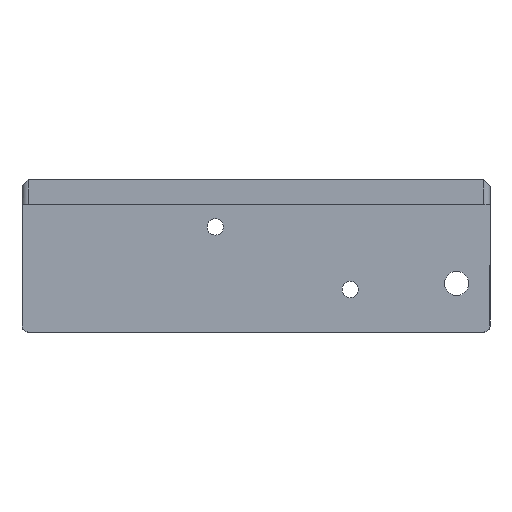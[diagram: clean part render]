
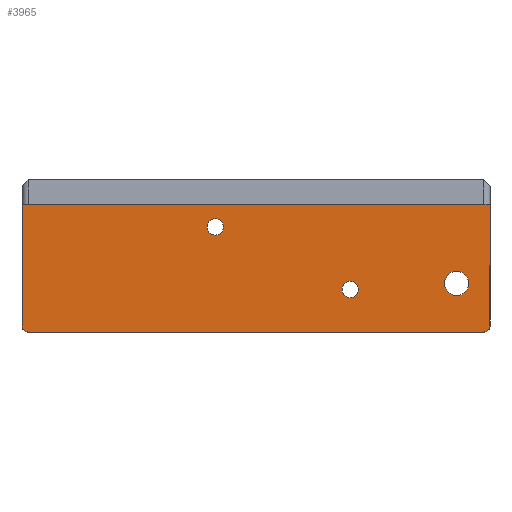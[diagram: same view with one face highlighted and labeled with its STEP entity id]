
A CAD part, top view. The second image highlights one B-rep face of the part: STEP entity #3965.
In plain terms, the highlighted planar face has unit normal (0, 0, 1).
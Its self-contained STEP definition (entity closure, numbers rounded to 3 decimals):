
#185 = CARTESIAN_POINT ( 'NONE',  ( -5.35, -5.7, -8.5 ) ) ;
#203 = DIRECTION ( 'NONE',  ( 0., 0., -1. ) ) ;
#207 = CARTESIAN_POINT ( 'NONE',  ( 37.5, -22., -8.5 ) ) ;
#208 = CIRCLE ( 'NONE', #2625, 1.35 ) ;
#272 = EDGE_LOOP ( 'NONE', ( #1256, #1338, #852, #5131, #1008, #1140 ) ) ;
#334 = CIRCLE ( 'NONE', #1825, 2. ) ;
#347 = DIRECTION ( 'NONE',  ( 0., 0., 1. ) ) ;
#359 = DIRECTION ( 'NONE',  ( 0., 0., -1. ) ) ;
#380 = FACE_BOUND ( 'NONE', #4721, .T. ) ;
#438 = EDGE_CURVE ( 'NONE', #2123, #4660, #4566, .T. ) ;
#508 = DIRECTION ( 'NONE',  ( 0., 0., -1. ) ) ;
#544 = EDGE_CURVE ( 'NONE', #1235, #3293, #5606, .T. ) ;
#565 = CARTESIAN_POINT ( 'NONE',  ( 16.85, -16., -8.5 ) ) ;
#583 = VECTOR ( 'NONE', #5707, 1000. ) ;
#586 = CIRCLE ( 'NONE', #3911, 1. ) ;
#611 = DIRECTION ( 'NONE',  ( 0., 1., 0. ) ) ;
#660 = EDGE_CURVE ( 'NONE', #4492, #2173, #2752, .T. ) ;
#662 = AXIS2_PLACEMENT_3D ( 'NONE', #3155, #359, #3627 ) ;
#676 = VERTEX_POINT ( 'NONE', #565 ) ;
#697 = DIRECTION ( 'NONE',  ( -1., 0., 0. ) ) ;
#779 = VERTEX_POINT ( 'NONE', #4849 ) ;
#852 = ORIENTED_EDGE ( 'NONE', *, *, #3095, .T. ) ;
#953 = CARTESIAN_POINT ( 'NONE',  ( -38.5, -22., -8.5 ) ) ;
#1008 = ORIENTED_EDGE ( 'NONE', *, *, #544, .F. ) ;
#1107 = CARTESIAN_POINT ( 'NONE',  ( 38.5, -2., -8.5 ) ) ;
#1140 = ORIENTED_EDGE ( 'NONE', *, *, #3703, .T. ) ;
#1177 = ORIENTED_EDGE ( 'NONE', *, *, #660, .T. ) ;
#1235 = VERTEX_POINT ( 'NONE', #953 ) ;
#1254 = CARTESIAN_POINT ( 'NONE',  ( 38.5, -23., -8.5 ) ) ;
#1256 = ORIENTED_EDGE ( 'NONE', *, *, #438, .F. ) ;
#1314 = AXIS2_PLACEMENT_3D ( 'NONE', #3299, #508, #3765 ) ;
#1338 = ORIENTED_EDGE ( 'NONE', *, *, #1470, .T. ) ;
#1379 = EDGE_CURVE ( 'NONE', #1755, #3293, #3752, .T. ) ;
#1418 = DIRECTION ( 'NONE',  ( 0., 0., -1. ) ) ;
#1470 = EDGE_CURVE ( 'NONE', #2123, #2653, #586, .T. ) ;
#1597 = FACE_BOUND ( 'NONE', #3853, .T. ) ;
#1755 = VERTEX_POINT ( 'NONE', #4916 ) ;
#1793 = VECTOR ( 'NONE', #1958, 1000. ) ;
#1825 = AXIS2_PLACEMENT_3D ( 'NONE', #2502, #5735, #2981 ) ;
#1834 = CIRCLE ( 'NONE', #2430, 1.35 ) ;
#1852 = ORIENTED_EDGE ( 'NONE', *, *, #3447, .T. ) ;
#1958 = DIRECTION ( 'NONE',  ( 0., 1., 0. ) ) ;
#2020 = CARTESIAN_POINT ( 'NONE',  ( 31., -15., -8.5 ) ) ;
#2059 = EDGE_CURVE ( 'NONE', #676, #779, #1834, .T. ) ;
#2123 = VERTEX_POINT ( 'NONE', #3143 ) ;
#2152 = CARTESIAN_POINT ( 'NONE',  ( -6.7, -5.7, -8.5 ) ) ;
#2173 = VERTEX_POINT ( 'NONE', #4548 ) ;
#2187 = DIRECTION ( 'NONE',  ( 0., 0., -1. ) ) ;
#2289 = EDGE_LOOP ( 'NONE', ( #3751, #1177 ) ) ;
#2355 = CARTESIAN_POINT ( 'NONE',  ( -8.05, -5.7, -8.5 ) ) ;
#2430 = AXIS2_PLACEMENT_3D ( 'NONE', #4976, #2187, #5427 ) ;
#2502 = CARTESIAN_POINT ( 'NONE',  ( 33., -15., -8.5 ) ) ;
#2553 = VECTOR ( 'NONE', #611, 1000. ) ;
#2625 = AXIS2_PLACEMENT_3D ( 'NONE', #2152, #5393, #2631 ) ;
#2631 = DIRECTION ( 'NONE',  ( -1., 0., 0. ) ) ;
#2653 = VERTEX_POINT ( 'NONE', #4162 ) ;
#2695 = CARTESIAN_POINT ( 'NONE',  ( -38.5, -2., -8.5 ) ) ;
#2718 = LINE ( 'NONE', #4327, #2553 ) ;
#2752 = CIRCLE ( 'NONE', #1314, 2. ) ;
#2819 = FACE_BOUND ( 'NONE', #2289, .T. ) ;
#2907 = CARTESIAN_POINT ( 'NONE',  ( -38.5, -23., -8.5 ) ) ;
#2909 = ORIENTED_EDGE ( 'NONE', *, *, #4121, .T. ) ;
#2981 = DIRECTION ( 'NONE',  ( -1., 0., 0. ) ) ;
#3008 = CARTESIAN_POINT ( 'NONE',  ( 15.5, -16., -8.5 ) ) ;
#3095 = EDGE_CURVE ( 'NONE', #2653, #1755, #2718, .T. ) ;
#3141 = CARTESIAN_POINT ( 'NONE',  ( -37.5, -22., -8.5 ) ) ;
#3143 = CARTESIAN_POINT ( 'NONE',  ( 37.5, -23., -8.5 ) ) ;
#3155 = CARTESIAN_POINT ( 'NONE',  ( -6.7, -5.7, -8.5 ) ) ;
#3217 = CIRCLE ( 'NONE', #662, 1.35 ) ;
#3283 = ORIENTED_EDGE ( 'NONE', *, *, #6001, .T. ) ;
#3293 = VERTEX_POINT ( 'NONE', #2695 ) ;
#3299 = CARTESIAN_POINT ( 'NONE',  ( 33., -15., -8.5 ) ) ;
#3312 = VECTOR ( 'NONE', #3593, 1000. ) ;
#3328 = ORIENTED_EDGE ( 'NONE', *, *, #2059, .T. ) ;
#3409 = CIRCLE ( 'NONE', #5447, 1. ) ;
#3447 = EDGE_CURVE ( 'NONE', #4813, #5183, #3217, .T. ) ;
#3468 = DIRECTION ( 'NONE',  ( -1., 0., 0. ) ) ;
#3474 = DIRECTION ( 'NONE',  ( 0., 0., 1. ) ) ;
#3565 = CARTESIAN_POINT ( 'NONE',  ( -37.5, -23., -8.5 ) ) ;
#3593 = DIRECTION ( 'NONE',  ( -1., 0., 0. ) ) ;
#3608 = DIRECTION ( 'NONE',  ( -1., 0., 0. ) ) ;
#3627 = DIRECTION ( 'NONE',  ( -1., 0., 0. ) ) ;
#3703 = EDGE_CURVE ( 'NONE', #1235, #4660, #3409, .T. ) ;
#3739 = PLANE ( 'NONE',  #5508 ) ;
#3751 = ORIENTED_EDGE ( 'NONE', *, *, #5072, .T. ) ;
#3752 = LINE ( 'NONE', #1107, #583 ) ;
#3765 = DIRECTION ( 'NONE',  ( -1., 0., 0. ) ) ;
#3853 = EDGE_LOOP ( 'NONE', ( #3328, #3283 ) ) ;
#3911 = AXIS2_PLACEMENT_3D ( 'NONE', #207, #3474, #697 ) ;
#3965 = ADVANCED_FACE ( 'NONE', ( #2819, #380, #1597, #4104 ), #3739, .F. ) ;
#4104 = FACE_OUTER_BOUND ( 'NONE', #272, .T. ) ;
#4121 = EDGE_CURVE ( 'NONE', #5183, #4813, #208, .T. ) ;
#4162 = CARTESIAN_POINT ( 'NONE',  ( 38.5, -22., -8.5 ) ) ;
#4327 = CARTESIAN_POINT ( 'NONE',  ( 38.5, -23., -8.5 ) ) ;
#4492 = VERTEX_POINT ( 'NONE', #2020 ) ;
#4548 = CARTESIAN_POINT ( 'NONE',  ( 35., -15., -8.5 ) ) ;
#4566 = LINE ( 'NONE', #1254, #3312 ) ;
#4653 = DIRECTION ( 'NONE',  ( -1., 0., 0. ) ) ;
#4660 = VERTEX_POINT ( 'NONE', #3565 ) ;
#4721 = EDGE_LOOP ( 'NONE', ( #2909, #1852 ) ) ;
#4813 = VERTEX_POINT ( 'NONE', #2355 ) ;
#4826 = AXIS2_PLACEMENT_3D ( 'NONE', #3008, #203, #3468 ) ;
#4849 = CARTESIAN_POINT ( 'NONE',  ( 14.15, -16., -8.5 ) ) ;
#4916 = CARTESIAN_POINT ( 'NONE',  ( 38.5, -2., -8.5 ) ) ;
#4976 = CARTESIAN_POINT ( 'NONE',  ( 15.5, -16., -8.5 ) ) ;
#5072 = EDGE_CURVE ( 'NONE', #2173, #4492, #334, .T. ) ;
#5131 = ORIENTED_EDGE ( 'NONE', *, *, #1379, .T. ) ;
#5183 = VERTEX_POINT ( 'NONE', #185 ) ;
#5392 = CIRCLE ( 'NONE', #4826, 1.35 ) ;
#5393 = DIRECTION ( 'NONE',  ( 0., 0., -1. ) ) ;
#5427 = DIRECTION ( 'NONE',  ( -1., 0., 0. ) ) ;
#5447 = AXIS2_PLACEMENT_3D ( 'NONE', #3141, #347, #3608 ) ;
#5508 = AXIS2_PLACEMENT_3D ( 'NONE', #6029, #1418, #4653 ) ;
#5606 = LINE ( 'NONE', #2907, #1793 ) ;
#5707 = DIRECTION ( 'NONE',  ( -1., 0., 0. ) ) ;
#5735 = DIRECTION ( 'NONE',  ( 0., 0., -1. ) ) ;
#6001 = EDGE_CURVE ( 'NONE', #779, #676, #5392, .T. ) ;
#6029 = CARTESIAN_POINT ( 'NONE',  ( 38.5, -23., -8.5 ) ) ;
